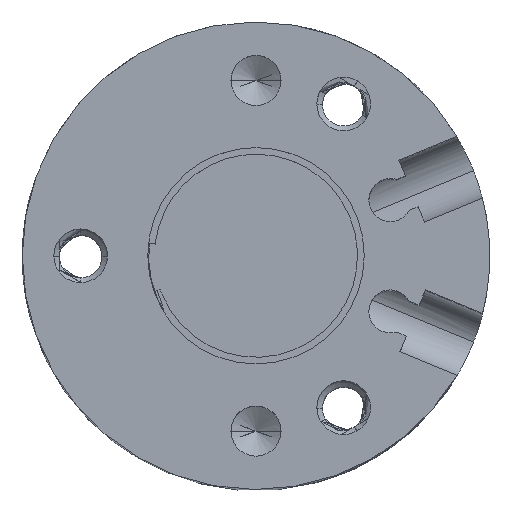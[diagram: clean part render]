
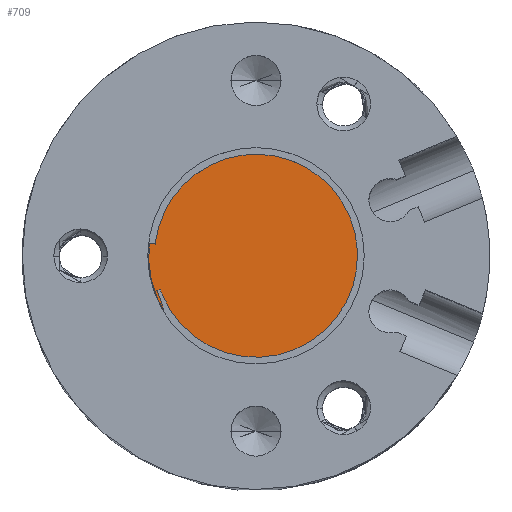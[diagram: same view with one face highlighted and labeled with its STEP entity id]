
A CAD part, top view. The second image highlights one B-rep face of the part: STEP entity #709.
In plain terms, the highlighted planar face has unit normal (0, 0, 1) as drawn and (0, 0, -1) by its records, which use the part's own axes.
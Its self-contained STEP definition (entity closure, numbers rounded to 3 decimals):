
#709 = ADVANCED_FACE ( 'NONE', ( #7239 ), #9220, .F. ) ;
#1341 = VERTEX_POINT ( 'NONE', #8367 ) ;
#1949 = EDGE_LOOP ( 'NONE', ( #4740, #5059 ) ) ;
#2972 = CARTESIAN_POINT ( 'NONE',  ( 0., 0., 0. ) ) ;
#3219 = DIRECTION ( 'NONE',  ( 0., 0., 1. ) ) ;
#4051 = DIRECTION ( 'NONE',  ( 1., 0., 0. ) ) ;
#4740 = ORIENTED_EDGE ( 'NONE', *, *, #12041, .F. ) ;
#4833 = AXIS2_PLACEMENT_3D ( 'NONE', #2972, #10258, #4051 ) ;
#4890 = CIRCLE ( 'NONE', #10750, 10.211 ) ;
#5059 = ORIENTED_EDGE ( 'NONE', *, *, #13234, .F. ) ;
#5830 = AXIS2_PLACEMENT_3D ( 'NONE', #13372, #13352, #12512 ) ;
#6211 = VERTEX_POINT ( 'NONE', #10168 ) ;
#7239 = FACE_OUTER_BOUND ( 'NONE', #1949, .T. ) ;
#7668 = CIRCLE ( 'NONE', #4833, 10.211 ) ;
#8367 = CARTESIAN_POINT ( 'NONE',  ( 10.211, 0., 0. ) ) ;
#9220 = PLANE ( 'NONE',  #5830 ) ;
#9430 = CARTESIAN_POINT ( 'NONE',  ( 0., 0., 0. ) ) ;
#10168 = CARTESIAN_POINT ( 'NONE',  ( -10.211, 0., 0. ) ) ;
#10258 = DIRECTION ( 'NONE',  ( 0., 0., 1. ) ) ;
#10495 = DIRECTION ( 'NONE',  ( 1., 0., 0. ) ) ;
#10750 = AXIS2_PLACEMENT_3D ( 'NONE', #9430, #3219, #10495 ) ;
#12041 = EDGE_CURVE ( 'NONE', #6211, #1341, #7668, .T. ) ;
#12512 = DIRECTION ( 'NONE',  ( 1., 0., 0. ) ) ;
#13234 = EDGE_CURVE ( 'NONE', #1341, #6211, #4890, .T. ) ;
#13352 = DIRECTION ( 'NONE',  ( 0., 0., 1. ) ) ;
#13372 = CARTESIAN_POINT ( 'NONE',  ( 0., 0., 0. ) ) ;
